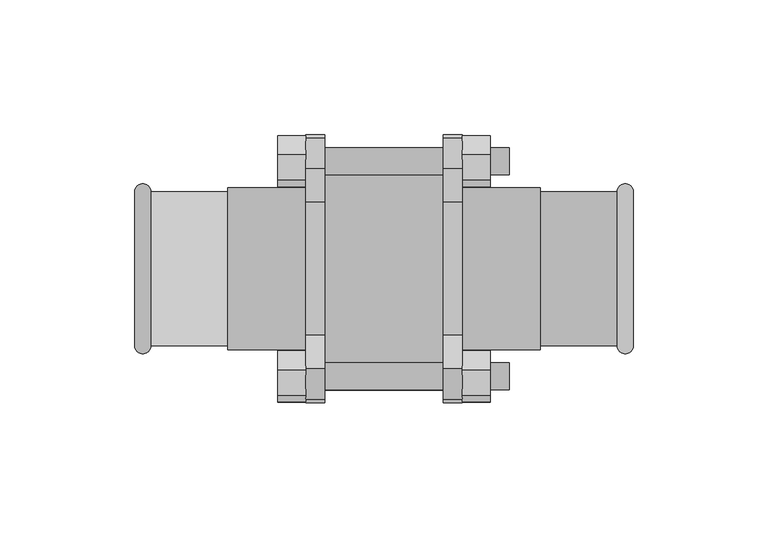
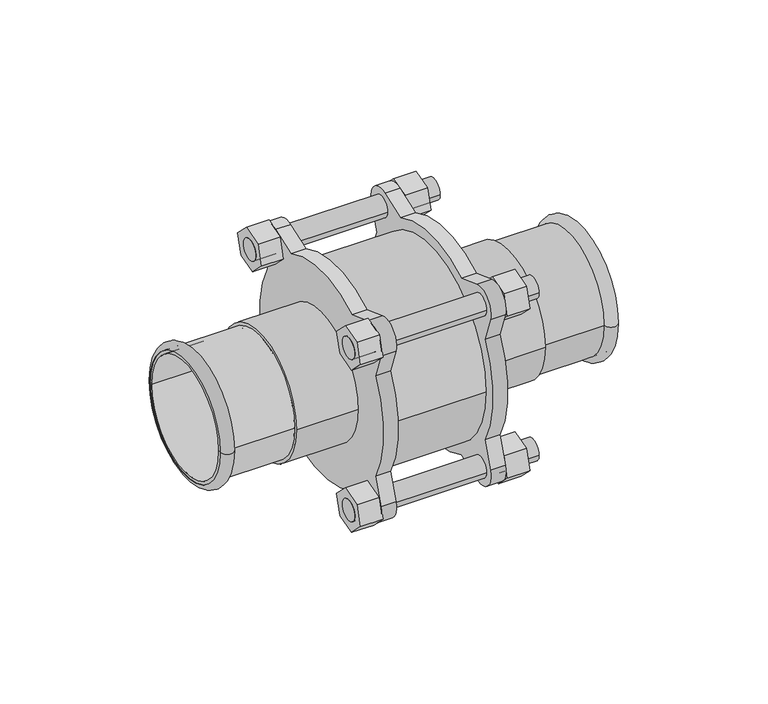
"""IFC4 building model written with IfcOpenShell, lengths in millimetres: valve geometry, NLRS_50_PIA_UN_Geberit Mapress rvs terugslagventiel geflensd_PRO_333155 : DN12-100 / d15-108 - OD."""

from ifc_helpers import new_model, si_unit, point, frame, frame_2d, origin, origin_2d, place, context, project, spatial, polyline, circle_curve, ellipse_curve, trimmed, segment, composite_curve, outline, extrude, source, transform, mapped, element, save
from ifc_brep_helpers import plane_surface, cylinder_surface, revolved_surface, advanced_brep


def valve_4438d6f1(model_context):
    return source(origin(), model_context, "Body", "SolidModel", [
        advanced_brep(
        [(92.5, -28.5, 0.0), (92.5, 28.5, 0.0), (86.4987073, 28.5, 0.0), (86.4987073, -28.5, 0.0)],
        [
            (0, 1, circle_curve(frame((92.5, 0.0, 0.0), z_axis=(1.0, 0.0, 0.0), x_axis=(0.0, 1.0, 0.0)), 28.5)),
            (1, 2),
            (2, 3, circle_curve(frame((86.4987073, 0.0, 0.0), z_axis=(-1.0, 0.0, 0.0), x_axis=(0.0, 1.0, 0.0)), 28.5)),
            (3, 0),
            (1, 0, circle_curve(frame((92.5, 0.0, 0.0), z_axis=(1.0, 0.0, 0.0), x_axis=(0.0, 1.0, 0.0)), 28.5)),
            (3, 2, circle_curve(frame((86.4987073, 0.0, 0.0), z_axis=(-1.0, 0.0, 0.0), x_axis=(0.0, 1.0, 0.0)), 28.5)),
            (2, 1, circle_curve(frame((89.4993536, 28.5, 0.0), z_axis=(0.0, 0.0, -1.0), x_axis=(1.0, 0.0, 0.0)), 3.0006464)),
            (0, 3, circle_curve(frame((89.4993536, -28.5, 0.0), z_axis=(0.0, 0.0, -1.0), x_axis=(1.0, 0.0, 0.0)), 3.0006464)),
        ],
        [
            revolved_surface(polyline([(86.4987073, 28.5, 0.0), (92.5, 28.5, 0.0)]), (58.0, 0.0, 0.0), (-1.0, 0.0, 0.0)),
            revolved_surface(trimmed(ellipse_curve(frame((89.4993536, 28.5, 0.0), z_axis=(0.0, 0.0, 1.0), x_axis=(1.0, 0.0, 0.0)), 3.0006464, 3.0006464), [point((92.5, 28.5, 0.0))], [point((86.4987073, 28.5, 0.0))], True, "CARTESIAN"), (58.0, 0.0, 0.0), (-1.0, 0.0, 0.0)),
        ],
        [
            (0, [[1, 2, 3, 4]]),
            (0, [[5, -4, 6, -2]]),
            (1, [[-3, 7, -1, 8]]),
            (1, [[-6, -8, -5, -7]]),
        ],
    ),
        advanced_brep(
        [(92.5, -27.0, 0.0), (92.5, 27.0, 0.0), (57.0, 27.0, 0.0), (57.0, -27.0, 0.0), (92.5, -28.5, 0.0), (92.5, 28.5, 0.0), (58.0, -28.5, 0.0), (58.0, 28.5, 0.0)],
        [
            (0, 1, circle_curve(frame((92.5, 0.0, 0.0), z_axis=(1.0, 0.0, 0.0), x_axis=(0.0, 1.0, 0.0)), 27.0)),
            (1, 2),
            (2, 3, circle_curve(frame((57.0, 0.0, 0.0), z_axis=(-1.0, 0.0, 0.0), x_axis=(0.0, 1.0, 0.0)), 27.0)),
            (3, 0),
            (1, 0, circle_curve(frame((92.5, 0.0, 0.0), z_axis=(1.0, 0.0, 0.0), x_axis=(0.0, 1.0, 0.0)), 27.0)),
            (3, 2, circle_curve(frame((57.0, 0.0, 0.0), z_axis=(-1.0, 0.0, 0.0), x_axis=(0.0, 1.0, 0.0)), 27.0)),
            (4, 5, circle_curve(frame((92.5, 0.0, 0.0), z_axis=(1.0, 0.0, 0.0), x_axis=(0.0, 1.0, 0.0)), 28.5)),
            (5, 1),
            (0, 4),
            (5, 4, circle_curve(frame((92.5, 0.0, 0.0), z_axis=(1.0, 0.0, 0.0), x_axis=(0.0, 1.0, 0.0)), 28.5)),
            (6, 7, circle_curve(frame((58.0, 0.0, 0.0), z_axis=(1.0, 0.0, 0.0), x_axis=(0.0, 1.0, 0.0)), 28.5)),
            (7, 5),
            (4, 6),
            (7, 6, circle_curve(frame((58.0, 0.0, 0.0), z_axis=(1.0, 0.0, 0.0), x_axis=(0.0, 1.0, 0.0)), 28.5)),
            (2, 7),
            (6, 3),
        ],
        [
            revolved_surface(polyline([(57.0, 27.0, 0.0), (92.5, 27.0, 0.0)]), (58.0, 0.0, 0.0), (-1.0, 0.0, 0.0)),
            plane_surface(frame((92.5, 0.0, 0.0), z_axis=(1.0, 0.0, 0.0), x_axis=(0.0, 1.0, 0.0))),
            cylinder_surface(frame((58.0, 0.0, 0.0), z_axis=(-1.0, 0.0, 0.0), x_axis=(0.0, 1.0, 0.0)), 28.5),
            revolved_surface(polyline([(58.0, 28.5, 0.0), (57.0, 27.0, 0.0)]), (58.0, 0.0, 0.0), (-1.0, 0.0, 0.0)),
        ],
        [
            (0, [[1, 2, 3, 4]]),
            (0, [[5, -4, 6, -2]]),
            (1, [[7, 8, -1, 9]]),
            (1, [[10, -9, -5, -8]]),
            (2, [[11, 12, -7, 13]]),
            (2, [[14, -13, -10, -12]]),
            (3, [[-3, 15, -11, 16]]),
            (3, [[-6, -16, -14, -15]]),
        ],
    ),
        advanced_brep(
        [(-92.5, 28.5, 0.0), (-92.5, -28.5, 0.0), (-86.4987073, -28.5, 0.0), (-86.4987073, 28.5, 0.0)],
        [
            (0, 1, circle_curve(frame((-92.5, 0.0, 0.0), z_axis=(-1.0, 0.0, 0.0), x_axis=(0.0, -1.0, 0.0)), 28.5)),
            (1, 2),
            (2, 3, circle_curve(frame((-86.4987073, 0.0, 0.0), z_axis=(1.0, 0.0, 0.0), x_axis=(0.0, -1.0, 0.0)), 28.5)),
            (3, 0),
            (1, 0, circle_curve(frame((-92.5, 0.0, 0.0), z_axis=(-1.0, 0.0, 0.0), x_axis=(0.0, -1.0, 0.0)), 28.5)),
            (3, 2, circle_curve(frame((-86.4987073, 0.0, 0.0), z_axis=(1.0, 0.0, 0.0), x_axis=(0.0, -1.0, 0.0)), 28.5)),
            (2, 1, circle_curve(frame((-89.4993536, -28.5, 0.0), z_axis=(0.0, 0.0, -1.0), x_axis=(-1.0, 0.0, 0.0)), 3.0006464)),
            (0, 3, circle_curve(frame((-89.4993536, 28.5, 0.0), z_axis=(0.0, 0.0, -1.0), x_axis=(-1.0, 0.0, 0.0)), 3.0006464)),
        ],
        [
            revolved_surface(polyline([(-86.4987073, -28.5, 0.0), (-92.5, -28.5, 0.0)]), (-58.0, 0.0, 0.0), (1.0, 0.0, 0.0)),
            revolved_surface(trimmed(ellipse_curve(frame((-89.4993536, -28.5, 0.0), z_axis=(0.0, 0.0, 1.0), x_axis=(-1.0, 0.0, 0.0)), 3.0006464, 3.0006464), [point((-92.5, -28.5, 0.0))], [point((-86.4987073, -28.5, 0.0))], True, "CARTESIAN"), (-58.0, 0.0, 0.0), (1.0, 0.0, 0.0)),
        ],
        [
            (0, [[1, 2, 3, 4]]),
            (0, [[5, -4, 6, -2]]),
            (1, [[-3, 7, -1, 8]]),
            (1, [[-6, -8, -5, -7]]),
        ],
    ),
        advanced_brep(
        [(-92.5, 27.0, 0.0), (-92.5, -27.0, 0.0), (-57.0, -27.0, 0.0), (-57.0, 27.0, 0.0), (-92.5, 28.5, 0.0), (-92.5, -28.5, 0.0), (-58.0, 28.5, 0.0), (-58.0, -28.5, 0.0)],
        [
            (0, 1, circle_curve(frame((-92.5, 0.0, 0.0), z_axis=(-1.0, 0.0, 0.0), x_axis=(0.0, -1.0, 0.0)), 27.0)),
            (1, 2),
            (2, 3, circle_curve(frame((-57.0, 0.0, 0.0), z_axis=(1.0, 0.0, 0.0), x_axis=(0.0, -1.0, 0.0)), 27.0)),
            (3, 0),
            (1, 0, circle_curve(frame((-92.5, 0.0, 0.0), z_axis=(-1.0, 0.0, 0.0), x_axis=(0.0, -1.0, 0.0)), 27.0)),
            (3, 2, circle_curve(frame((-57.0, 0.0, 0.0), z_axis=(1.0, 0.0, 0.0), x_axis=(0.0, -1.0, 0.0)), 27.0)),
            (4, 5, circle_curve(frame((-92.5, 0.0, 0.0), z_axis=(-1.0, 0.0, 0.0), x_axis=(0.0, -1.0, 0.0)), 28.5)),
            (5, 1),
            (0, 4),
            (5, 4, circle_curve(frame((-92.5, 0.0, 0.0), z_axis=(-1.0, 0.0, 0.0), x_axis=(0.0, -1.0, 0.0)), 28.5)),
            (6, 7, circle_curve(frame((-58.0, 0.0, 0.0), z_axis=(-1.0, 0.0, 0.0), x_axis=(0.0, -1.0, 0.0)), 28.5)),
            (7, 5),
            (4, 6),
            (7, 6, circle_curve(frame((-58.0, 0.0, 0.0), z_axis=(-1.0, 0.0, 0.0), x_axis=(0.0, -1.0, 0.0)), 28.5)),
            (2, 7),
            (6, 3),
        ],
        [
            revolved_surface(polyline([(-57.0, -27.0, 0.0), (-92.5, -27.0, 0.0)]), (-58.0, 0.0, 0.0), (1.0, 0.0, 0.0)),
            plane_surface(frame((-92.5, 0.0, 0.0), z_axis=(-1.0, 0.0, 0.0), x_axis=(0.0, -1.0, 0.0))),
            cylinder_surface(frame((-58.0, 0.0, 0.0), z_axis=(1.0, 0.0, 0.0), x_axis=(0.0, -1.0, 0.0)), 28.5),
            revolved_surface(polyline([(-58.0, -28.5, 0.0), (-57.0, -27.0, 0.0)]), (-58.0, 0.0, 0.0), (1.0, 0.0, 0.0)),
        ],
        [
            (0, [[1, 2, 3, 4]]),
            (0, [[5, -4, 6, -2]]),
            (1, [[7, 8, -1, 9]]),
            (1, [[10, -9, -5, -8]]),
            (2, [[11, 12, -7, 13]]),
            (2, [[14, -13, -10, -12]]),
            (3, [[-3, 15, -11, 16]]),
            (3, [[-6, -16, -14, -15]]),
        ],
    ),
        advanced_brep(
        [(-39.5, -44.9515331, 39.9515331), (-39.5, -34.9515331, 39.9515331), (-39.5, 34.9515331, 39.9515331), (-39.5, 44.9515331, 39.9515331), (-39.5, -44.9515331, -39.9515331), (-39.5, -34.9515331, -39.9515331), (-39.5, 34.9515331, -39.9515331), (-39.5, 44.9515331, -39.9515331), (46.5, -44.9515331, 39.9515331), (46.5, -34.9515331, 39.9515331), (46.5, 34.9515331, 39.9515331), (46.5, 44.9515331, 39.9515331), (46.5, -44.9515331, -39.9515331), (46.5, -34.9515331, -39.9515331), (46.5, 34.9515331, -39.9515331), (46.5, 44.9515331, -39.9515331), (-29.0, -44.9515331, 39.9515331), (-29.0, -34.9515331, 39.9515331), (29.0, -34.9515331, 39.9515331), (29.0, -44.9515331, 39.9515331), (22.0, -44.9515331, 39.9515331), (22.0, -34.9515331, 39.9515331), (-22.0, -34.9515331, 39.9515331), (-22.0, -44.9515331, 39.9515331), (-29.0, 34.9515331, 39.9515331), (-29.0, 44.9515331, 39.9515331), (29.0, 44.9515331, 39.9515331), (29.0, 34.9515331, 39.9515331), (22.0, 34.9515331, 39.9515331), (22.0, 44.9515331, 39.9515331), (-22.0, 44.9515331, 39.9515331), (-22.0, 34.9515331, 39.9515331), (-29.0, -44.9515331, -39.9515331), (-29.0, -34.9515331, -39.9515331), (29.0, -34.9515331, -39.9515331), (29.0, -44.9515331, -39.9515331), (22.0, -44.9515331, -39.9515331), (22.0, -34.9515331, -39.9515331), (-22.0, -34.9515331, -39.9515331), (-22.0, -44.9515331, -39.9515331), (-29.0, 34.9515331, -39.9515331), (-29.0, 44.9515331, -39.9515331), (29.0, 44.9515331, -39.9515331), (29.0, 34.9515331, -39.9515331), (22.0, 34.9515331, -39.9515331), (22.0, 44.9515331, -39.9515331), (-22.0, 44.9515331, -39.9515331), (-22.0, 34.9515331, -39.9515331), (22.0, -43.4565382, 24.7291181), (22.0, -47.9389204, 37.0443619), (22.0, -37.0443619, 47.9389204), (22.0, -24.7291181, 43.4565382), (22.0, 24.7291181, 43.4565382), (22.0, 37.0443619, 47.9389204), (22.0, 47.9389204, 37.0443619), (22.0, 43.4565382, 24.7291181), (22.0, 43.4565382, -24.7291181), (22.0, 47.9389204, -37.0443619), (22.0, 37.0443619, -47.9389204), (22.0, 24.7291181, -43.4565382), (22.0, -24.7291181, -43.4565382), (22.0, -37.0443619, -47.9389204), (22.0, -47.9389204, -37.0443619), (22.0, -43.4565382, -24.7291181), (29.0, -43.4565382, 24.7291181), (29.0, -43.4565382, -24.7291181), (29.0, -47.9389204, -37.0443619), (29.0, -37.0443619, -47.9389204), (29.0, -24.7291181, -43.4565382), (29.0, 24.7291181, -43.4565382), (29.0, 37.0443619, -47.9389204), (29.0, 47.9389204, -37.0443619), (29.0, 43.4565382, -24.7291181), (29.0, 43.4565382, 24.7291181), (29.0, 47.9389204, 37.0443619), (29.0, 37.0443619, 47.9389204), (29.0, 24.7291181, 43.4565382), (29.0, -24.7291181, 43.4565382), (29.0, -37.0443619, 47.9389204), (29.0, -47.9389204, 37.0443619), (-29.0, -43.4565382, 24.7291181), (-29.0, -47.9389204, 37.0443619), (-29.0, -37.0443619, 47.9389204), (-29.0, -24.7291181, 43.4565382), (-29.0, 24.7291181, 43.4565382), (-29.0, 37.0443619, 47.9389204), (-29.0, 47.9389204, 37.0443619), (-29.0, 43.4565382, 24.7291181), (-29.0, 43.4565382, -24.7291181), (-29.0, 47.9389204, -37.0443619), (-29.0, 37.0443619, -47.9389204), (-29.0, 24.7291181, -43.4565382), (-29.0, -24.7291181, -43.4565382), (-29.0, -37.0443619, -47.9389204), (-29.0, -47.9389204, -37.0443619), (-29.0, -43.4565382, -24.7291181), (-22.0, -43.4565382, 24.7291181), (-22.0, -43.4565382, -24.7291181), (-22.0, -47.9389204, -37.0443619), (-22.0, -37.0443619, -47.9389204), (-22.0, -24.7291181, -43.4565382), (-22.0, 24.7291181, -43.4565382), (-22.0, 37.0443619, -47.9389204), (-22.0, 47.9389204, -37.0443619), (-22.0, 43.4565382, -24.7291181), (-22.0, 43.4565382, 24.7291181), (-22.0, 47.9389204, 37.0443619), (-22.0, 37.0443619, 47.9389204), (-22.0, 24.7291181, 43.4565382), (-22.0, -24.7291181, 43.4565382), (-22.0, -37.0443619, 47.9389204), (-22.0, -47.9389204, 37.0443619)],
        [
            (0, 1, circle_curve(frame((-39.5, -39.9515331, 39.9515331), z_axis=(-1.0, 0.0, 0.0), x_axis=(0.0, 1.0, 0.0)), 5.0)),
            (1, 0, circle_curve(frame((-39.5, -39.9515331, 39.9515331), z_axis=(-1.0, 0.0, 0.0), x_axis=(0.0, 1.0, 0.0)), 5.0)),
            (2, 3, circle_curve(frame((-39.5, 39.9515331, 39.9515331), z_axis=(-1.0, 0.0, 0.0), x_axis=(0.0, 1.0, 0.0)), 5.0)),
            (3, 2, circle_curve(frame((-39.5, 39.9515331, 39.9515331), z_axis=(-1.0, 0.0, 0.0), x_axis=(0.0, 1.0, 0.0)), 5.0)),
            (4, 5, circle_curve(frame((-39.5, -39.9515331, -39.9515331), z_axis=(-1.0, 0.0, 0.0), x_axis=(0.0, 1.0, 0.0)), 5.0)),
            (5, 4, circle_curve(frame((-39.5, -39.9515331, -39.9515331), z_axis=(-1.0, 0.0, 0.0), x_axis=(0.0, 1.0, 0.0)), 5.0)),
            (6, 7, circle_curve(frame((-39.5, 39.9515331, -39.9515331), z_axis=(-1.0, 0.0, 0.0), x_axis=(0.0, 1.0, 0.0)), 5.0)),
            (7, 6, circle_curve(frame((-39.5, 39.9515331, -39.9515331), z_axis=(-1.0, 0.0, 0.0), x_axis=(0.0, 1.0, 0.0)), 5.0)),
            (8, 9, circle_curve(frame((46.5, -39.9515331, 39.9515331), z_axis=(1.0, 0.0, 0.0), x_axis=(0.0, 1.0, 0.0)), 5.0)),
            (9, 8, circle_curve(frame((46.5, -39.9515331, 39.9515331), z_axis=(1.0, 0.0, 0.0), x_axis=(0.0, 1.0, 0.0)), 5.0)),
            (10, 11, circle_curve(frame((46.5, 39.9515331, 39.9515331), z_axis=(1.0, 0.0, 0.0), x_axis=(0.0, 1.0, 0.0)), 5.0)),
            (11, 10, circle_curve(frame((46.5, 39.9515331, 39.9515331), z_axis=(1.0, 0.0, 0.0), x_axis=(0.0, 1.0, 0.0)), 5.0)),
            (12, 13, circle_curve(frame((46.5, -39.9515331, -39.9515331), z_axis=(1.0, 0.0, 0.0), x_axis=(0.0, 1.0, 0.0)), 5.0)),
            (13, 12, circle_curve(frame((46.5, -39.9515331, -39.9515331), z_axis=(1.0, 0.0, 0.0), x_axis=(0.0, 1.0, 0.0)), 5.0)),
            (14, 15, circle_curve(frame((46.5, 39.9515331, -39.9515331), z_axis=(1.0, 0.0, 0.0), x_axis=(0.0, 1.0, 0.0)), 5.0)),
            (15, 14, circle_curve(frame((46.5, 39.9515331, -39.9515331), z_axis=(1.0, 0.0, 0.0), x_axis=(0.0, 1.0, 0.0)), 5.0)),
            (0, 16),
            (16, 17, circle_curve(frame((-29.0, -39.9515331, 39.9515331), z_axis=(-1.0, 0.0, 0.0), x_axis=(0.0, 1.0, 0.0)), 5.0)),
            (17, 1),
            (9, 18),
            (18, 19, circle_curve(frame((29.0, -39.9515331, 39.9515331), z_axis=(1.0, 0.0, 0.0), x_axis=(0.0, 1.0, 0.0)), 5.0)),
            (19, 8),
            (20, 21, circle_curve(frame((22.0, -39.9515331, 39.9515331), z_axis=(-1.0, 0.0, 0.0), x_axis=(0.0, 1.0, 0.0)), 5.0)),
            (21, 22),
            (22, 23, circle_curve(frame((-22.0, -39.9515331, 39.9515331), z_axis=(1.0, 0.0, 0.0), x_axis=(0.0, 1.0, 0.0)), 5.0)),
            (23, 20),
            (17, 16, circle_curve(frame((-29.0, -39.9515331, 39.9515331), z_axis=(-1.0, 0.0, 0.0), x_axis=(0.0, 1.0, 0.0)), 5.0)),
            (19, 18, circle_curve(frame((29.0, -39.9515331, 39.9515331), z_axis=(1.0, 0.0, 0.0), x_axis=(0.0, 1.0, 0.0)), 5.0)),
            (21, 20, circle_curve(frame((22.0, -39.9515331, 39.9515331), z_axis=(-1.0, 0.0, 0.0), x_axis=(0.0, 1.0, 0.0)), 5.0)),
            (23, 22, circle_curve(frame((-22.0, -39.9515331, 39.9515331), z_axis=(1.0, 0.0, 0.0), x_axis=(0.0, 1.0, 0.0)), 5.0)),
            (2, 24),
            (24, 25, circle_curve(frame((-29.0, 39.9515331, 39.9515331), z_axis=(-1.0, 0.0, 0.0), x_axis=(0.0, 1.0, 0.0)), 5.0)),
            (25, 3),
            (11, 26),
            (26, 27, circle_curve(frame((29.0, 39.9515331, 39.9515331), z_axis=(1.0, 0.0, 0.0), x_axis=(0.0, 1.0, 0.0)), 5.0)),
            (27, 10),
            (28, 29, circle_curve(frame((22.0, 39.9515331, 39.9515331), z_axis=(-1.0, 0.0, 0.0), x_axis=(0.0, 1.0, 0.0)), 5.0)),
            (29, 30),
            (30, 31, circle_curve(frame((-22.0, 39.9515331, 39.9515331), z_axis=(1.0, 0.0, 0.0), x_axis=(0.0, 1.0, 0.0)), 5.0)),
            (31, 28),
            (25, 24, circle_curve(frame((-29.0, 39.9515331, 39.9515331), z_axis=(-1.0, 0.0, 0.0), x_axis=(0.0, 1.0, 0.0)), 5.0)),
            (27, 26, circle_curve(frame((29.0, 39.9515331, 39.9515331), z_axis=(1.0, 0.0, 0.0), x_axis=(0.0, 1.0, 0.0)), 5.0)),
            (29, 28, circle_curve(frame((22.0, 39.9515331, 39.9515331), z_axis=(-1.0, 0.0, 0.0), x_axis=(0.0, 1.0, 0.0)), 5.0)),
            (31, 30, circle_curve(frame((-22.0, 39.9515331, 39.9515331), z_axis=(1.0, 0.0, 0.0), x_axis=(0.0, 1.0, 0.0)), 5.0)),
            (4, 32),
            (32, 33, circle_curve(frame((-29.0, -39.9515331, -39.9515331), z_axis=(-1.0, 0.0, 0.0), x_axis=(0.0, 1.0, 0.0)), 5.0)),
            (33, 5),
            (13, 34),
            (34, 35, circle_curve(frame((29.0, -39.9515331, -39.9515331), z_axis=(1.0, 0.0, 0.0), x_axis=(0.0, 1.0, 0.0)), 5.0)),
            (35, 12),
            (36, 37, circle_curve(frame((22.0, -39.9515331, -39.9515331), z_axis=(-1.0, 0.0, 0.0), x_axis=(0.0, 1.0, 0.0)), 5.0)),
            (37, 38),
            (38, 39, circle_curve(frame((-22.0, -39.9515331, -39.9515331), z_axis=(1.0, 0.0, 0.0), x_axis=(0.0, 1.0, 0.0)), 5.0)),
            (39, 36),
            (33, 32, circle_curve(frame((-29.0, -39.9515331, -39.9515331), z_axis=(-1.0, 0.0, 0.0), x_axis=(0.0, 1.0, 0.0)), 5.0)),
            (35, 34, circle_curve(frame((29.0, -39.9515331, -39.9515331), z_axis=(1.0, 0.0, 0.0), x_axis=(0.0, 1.0, 0.0)), 5.0)),
            (37, 36, circle_curve(frame((22.0, -39.9515331, -39.9515331), z_axis=(-1.0, 0.0, 0.0), x_axis=(0.0, 1.0, 0.0)), 5.0)),
            (39, 38, circle_curve(frame((-22.0, -39.9515331, -39.9515331), z_axis=(1.0, 0.0, 0.0), x_axis=(0.0, 1.0, 0.0)), 5.0)),
            (6, 40),
            (40, 41, circle_curve(frame((-29.0, 39.9515331, -39.9515331), z_axis=(-1.0, 0.0, 0.0), x_axis=(0.0, 1.0, 0.0)), 5.0)),
            (41, 7),
            (15, 42),
            (42, 43, circle_curve(frame((29.0, 39.9515331, -39.9515331), z_axis=(1.0, 0.0, 0.0), x_axis=(0.0, 1.0, 0.0)), 5.0)),
            (43, 14),
            (44, 45, circle_curve(frame((22.0, 39.9515331, -39.9515331), z_axis=(-1.0, 0.0, 0.0), x_axis=(0.0, 1.0, 0.0)), 5.0)),
            (45, 46),
            (46, 47, circle_curve(frame((-22.0, 39.9515331, -39.9515331), z_axis=(1.0, 0.0, 0.0), x_axis=(0.0, 1.0, 0.0)), 5.0)),
            (47, 44),
            (41, 40, circle_curve(frame((-29.0, 39.9515331, -39.9515331), z_axis=(-1.0, 0.0, 0.0), x_axis=(0.0, 1.0, 0.0)), 5.0)),
            (43, 42, circle_curve(frame((29.0, 39.9515331, -39.9515331), z_axis=(1.0, 0.0, 0.0), x_axis=(0.0, 1.0, 0.0)), 5.0)),
            (45, 44, circle_curve(frame((22.0, 39.9515331, -39.9515331), z_axis=(-1.0, 0.0, 0.0), x_axis=(0.0, 1.0, 0.0)), 5.0)),
            (47, 46, circle_curve(frame((-22.0, 39.9515331, -39.9515331), z_axis=(1.0, 0.0, 0.0), x_axis=(0.0, 1.0, 0.0)), 5.0)),
            (48, 49),
            (49, 50, circle_curve(frame((22.0, -39.9515331, 39.9515331), z_axis=(-1.0, 0.0, 0.0), x_axis=(0.0, 1.0, 0.0)), 8.5)),
            (50, 51),
            (51, 52, circle_curve(frame((22.0, 0.0, 0.0), z_axis=(-1.0, 0.0, 0.0), x_axis=(0.0, 1.0, 0.0)), 50.0)),
            (52, 53),
            (53, 54, circle_curve(frame((22.0, 39.9515331, 39.9515331), z_axis=(-1.0, 0.0, 0.0), x_axis=(0.0, 1.0, 0.0)), 8.5)),
            (54, 55),
            (55, 56, circle_curve(frame((22.0, 0.0, 0.0), z_axis=(-1.0, 0.0, 0.0), x_axis=(0.0, 1.0, 0.0)), 50.0)),
            (56, 57),
            (57, 58, circle_curve(frame((22.0, 39.9515331, -39.9515331), z_axis=(-1.0, 0.0, 0.0), x_axis=(0.0, 1.0, 0.0)), 8.5)),
            (58, 59),
            (59, 60, circle_curve(frame((22.0, 0.0, 0.0), z_axis=(-1.0, 0.0, 0.0), x_axis=(0.0, 1.0, 0.0)), 50.0)),
            (60, 61),
            (61, 62, circle_curve(frame((22.0, -39.9515331, -39.9515331), z_axis=(-1.0, 0.0, 0.0), x_axis=(0.0, 1.0, 0.0)), 8.5)),
            (62, 63),
            (63, 48, circle_curve(frame((22.0, 0.0, 0.0), z_axis=(-1.0, 0.0, 0.0), x_axis=(0.0, 1.0, 0.0)), 50.0)),
            (64, 65, circle_curve(frame((29.0, 0.0, 0.0), z_axis=(1.0, 0.0, 0.0), x_axis=(0.0, 1.0, 0.0)), 50.0)),
            (65, 66),
            (66, 67, circle_curve(frame((29.0, -39.9515331, -39.9515331), z_axis=(1.0, 0.0, 0.0), x_axis=(0.0, 1.0, 0.0)), 8.5)),
            (67, 68),
            (68, 69, circle_curve(frame((29.0, 0.0, 0.0), z_axis=(1.0, 0.0, 0.0), x_axis=(0.0, 1.0, 0.0)), 50.0)),
            (69, 70),
            (70, 71, circle_curve(frame((29.0, 39.9515331, -39.9515331), z_axis=(1.0, 0.0, 0.0), x_axis=(0.0, 1.0, 0.0)), 8.5)),
            (71, 72),
            (72, 73, circle_curve(frame((29.0, 0.0, 0.0), z_axis=(1.0, 0.0, 0.0), x_axis=(0.0, 1.0, 0.0)), 50.0)),
            (73, 74),
            (74, 75, circle_curve(frame((29.0, 39.9515331, 39.9515331), z_axis=(1.0, 0.0, 0.0), x_axis=(0.0, 1.0, 0.0)), 8.5)),
            (75, 76),
            (76, 77, circle_curve(frame((29.0, 0.0, 0.0), z_axis=(1.0, 0.0, 0.0), x_axis=(0.0, 1.0, 0.0)), 50.0)),
            (77, 78),
            (78, 79, circle_curve(frame((29.0, -39.9515331, 39.9515331), z_axis=(1.0, 0.0, 0.0), x_axis=(0.0, 1.0, 0.0)), 8.5)),
            (79, 64),
            (48, 64),
            (79, 49),
            (78, 50),
            (77, 51),
            (76, 52),
            (75, 53),
            (74, 54),
            (73, 55),
            (72, 56),
            (71, 57),
            (70, 58),
            (69, 59),
            (68, 60),
            (67, 61),
            (66, 62),
            (65, 63),
            (80, 81),
            (81, 82, circle_curve(frame((-29.0, -39.9515331, 39.9515331), z_axis=(-1.0, 0.0, 0.0), x_axis=(0.0, 1.0, 0.0)), 8.5)),
            (82, 83),
            (83, 84, circle_curve(frame((-29.0, 0.0, 0.0), z_axis=(-1.0, 0.0, 0.0), x_axis=(0.0, 1.0, 0.0)), 50.0)),
            (84, 85),
            (85, 86, circle_curve(frame((-29.0, 39.9515331, 39.9515331), z_axis=(-1.0, 0.0, 0.0), x_axis=(0.0, 1.0, 0.0)), 8.5)),
            (86, 87),
            (87, 88, circle_curve(frame((-29.0, 0.0, 0.0), z_axis=(-1.0, 0.0, 0.0), x_axis=(0.0, 1.0, 0.0)), 50.0)),
            (88, 89),
            (89, 90, circle_curve(frame((-29.0, 39.9515331, -39.9515331), z_axis=(-1.0, 0.0, 0.0), x_axis=(0.0, 1.0, 0.0)), 8.5)),
            (90, 91),
            (91, 92, circle_curve(frame((-29.0, 0.0, 0.0), z_axis=(-1.0, 0.0, 0.0), x_axis=(0.0, 1.0, 0.0)), 50.0)),
            (92, 93),
            (93, 94, circle_curve(frame((-29.0, -39.9515331, -39.9515331), z_axis=(-1.0, 0.0, 0.0), x_axis=(0.0, 1.0, 0.0)), 8.5)),
            (94, 95),
            (95, 80, circle_curve(frame((-29.0, 0.0, 0.0), z_axis=(-1.0, 0.0, 0.0), x_axis=(0.0, 1.0, 0.0)), 50.0)),
            (96, 97, circle_curve(frame((-22.0, 0.0, 0.0), z_axis=(1.0, 0.0, 0.0), x_axis=(0.0, 1.0, 0.0)), 50.0)),
            (97, 98),
            (98, 99, circle_curve(frame((-22.0, -39.9515331, -39.9515331), z_axis=(1.0, 0.0, 0.0), x_axis=(0.0, 1.0, 0.0)), 8.5)),
            (99, 100),
            (100, 101, circle_curve(frame((-22.0, 0.0, 0.0), z_axis=(1.0, 0.0, 0.0), x_axis=(0.0, 1.0, 0.0)), 50.0)),
            (101, 102),
            (102, 103, circle_curve(frame((-22.0, 39.9515331, -39.9515331), z_axis=(1.0, 0.0, 0.0), x_axis=(0.0, 1.0, 0.0)), 8.5)),
            (103, 104),
            (104, 105, circle_curve(frame((-22.0, 0.0, 0.0), z_axis=(1.0, 0.0, 0.0), x_axis=(0.0, 1.0, 0.0)), 50.0)),
            (105, 106),
            (106, 107, circle_curve(frame((-22.0, 39.9515331, 39.9515331), z_axis=(1.0, 0.0, 0.0), x_axis=(0.0, 1.0, 0.0)), 8.5)),
            (107, 108),
            (108, 109, circle_curve(frame((-22.0, 0.0, 0.0), z_axis=(1.0, 0.0, 0.0), x_axis=(0.0, 1.0, 0.0)), 50.0)),
            (109, 110),
            (110, 111, circle_curve(frame((-22.0, -39.9515331, 39.9515331), z_axis=(1.0, 0.0, 0.0), x_axis=(0.0, 1.0, 0.0)), 8.5)),
            (111, 96),
            (80, 96),
            (111, 81),
            (110, 82),
            (109, 83),
            (108, 84),
            (107, 85),
            (106, 86),
            (105, 87),
            (104, 88),
            (103, 89),
            (102, 90),
            (101, 91),
            (100, 92),
            (99, 93),
            (98, 94),
            (97, 95),
        ],
        [
            plane_surface(frame((-39.5, 0.0, 0.0), z_axis=(-1.0, 0.0, 0.0), x_axis=(0.0, 0.0, 1.0))),
            plane_surface(frame((46.5, 0.0, 0.0), z_axis=(1.0, 0.0, 0.0), x_axis=(0.0, 0.0, 1.0))),
            cylinder_surface(frame((-39.5, -39.9515331, 39.9515331), z_axis=(-1.0, 0.0, 0.0), x_axis=(0.0, 1.0, 0.0)), 5.0),
            cylinder_surface(frame((-39.5, 39.9515331, 39.9515331), z_axis=(-1.0, 0.0, 0.0), x_axis=(0.0, 1.0, 0.0)), 5.0),
            cylinder_surface(frame((-39.5, -39.9515331, -39.9515331), z_axis=(-1.0, 0.0, 0.0), x_axis=(0.0, 1.0, 0.0)), 5.0),
            cylinder_surface(frame((-39.5, 39.9515331, -39.9515331), z_axis=(-1.0, 0.0, 0.0), x_axis=(0.0, 1.0, 0.0)), 5.0),
            plane_surface(frame((22.0, 0.0, 0.0), z_axis=(-1.0, 0.0, 0.0), x_axis=(0.0, 0.0, 1.0))),
            plane_surface(frame((29.0, 0.0, 0.0), z_axis=(1.0, 0.0, 0.0), x_axis=(0.0, 0.0, 1.0))),
            plane_surface(frame((22.0, -43.4565382, 24.7291181), z_axis=(0.0, -0.9396926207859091, -0.3420201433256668), x_axis=(1.0, 0.0, 0.0))),
            cylinder_surface(frame((22.0, -39.9515331, 39.9515331), z_axis=(-1.0, 0.0, 0.0), x_axis=(0.0, 1.0, 0.0)), 8.5),
            plane_surface(frame((22.0, -37.0443619, 47.9389204), z_axis=(0.0, 0.34202014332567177, 0.9396926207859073), x_axis=(1.0, 0.0, 0.0))),
            cylinder_surface(frame((22.0, 0.0, 0.0), z_axis=(-1.0, 0.0, 0.0), x_axis=(0.0, 1.0, 0.0)), 50.0),
            plane_surface(frame((22.0, 24.7291181, 43.4565382), z_axis=(0.0, -0.34202014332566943, 0.9396926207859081), x_axis=(1.0, 0.0, 0.0))),
            cylinder_surface(frame((22.0, 39.9515331, 39.9515331), z_axis=(-1.0, 0.0, 0.0), x_axis=(0.0, 1.0, 0.0)), 8.5),
            plane_surface(frame((22.0, 47.9389204, 37.0443619), z_axis=(0.0, 0.9396926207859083, -0.34202014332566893), x_axis=(1.0, 0.0, 0.0))),
            plane_surface(frame((22.0, 43.4565382, -24.7291181), z_axis=(0.0, 0.9396926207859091, 0.34202014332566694), x_axis=(1.0, 0.0, 0.0))),
            cylinder_surface(frame((22.0, 39.9515331, -39.9515331), z_axis=(-1.0, 0.0, 0.0), x_axis=(0.0, 1.0, 0.0)), 8.5),
            plane_surface(frame((22.0, 37.0443619, -47.9389204), z_axis=(0.0, -0.3420201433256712, -0.9396926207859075), x_axis=(1.0, 0.0, 0.0))),
            plane_surface(frame((22.0, -24.7291181, -43.4565382), z_axis=(0.0, 0.34202014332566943, -0.9396926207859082), x_axis=(1.0, 0.0, 0.0))),
            cylinder_surface(frame((22.0, -39.9515331, -39.9515331), z_axis=(-1.0, 0.0, 0.0), x_axis=(0.0, 1.0, 0.0)), 8.5),
            plane_surface(frame((22.0, -47.9389204, -37.0443619), z_axis=(0.0, -0.9396926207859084, 0.34202014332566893), x_axis=(1.0, 0.0, 0.0))),
            plane_surface(frame((-29.0, 0.0, 0.0), z_axis=(-1.0, 0.0, 0.0), x_axis=(0.0, 0.0, 1.0))),
            plane_surface(frame((-22.0, 0.0, 0.0), z_axis=(1.0, 0.0, 0.0), x_axis=(0.0, 0.0, 1.0))),
            plane_surface(frame((-29.0, -43.4565382, 24.7291181), z_axis=(0.0, -0.9396926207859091, -0.3420201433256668), x_axis=(1.0, 0.0, 0.0))),
            cylinder_surface(frame((-29.0, -39.9515331, 39.9515331), z_axis=(-1.0, 0.0, 0.0), x_axis=(0.0, 1.0, 0.0)), 8.5),
            plane_surface(frame((-29.0, -37.0443619, 47.9389204), z_axis=(0.0, 0.34202014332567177, 0.9396926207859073), x_axis=(1.0, 0.0, 0.0))),
            cylinder_surface(frame((-29.0, 0.0, 0.0), z_axis=(-1.0, 0.0, 0.0), x_axis=(0.0, 1.0, 0.0)), 50.0),
            plane_surface(frame((-29.0, 24.7291181, 43.4565382), z_axis=(0.0, -0.34202014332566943, 0.9396926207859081), x_axis=(1.0, 0.0, 0.0))),
            cylinder_surface(frame((-29.0, 39.9515331, 39.9515331), z_axis=(-1.0, 0.0, 0.0), x_axis=(0.0, 1.0, 0.0)), 8.5),
            plane_surface(frame((-29.0, 47.9389204, 37.0443619), z_axis=(0.0, 0.9396926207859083, -0.34202014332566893), x_axis=(1.0, 0.0, 0.0))),
            plane_surface(frame((-29.0, 43.4565382, -24.7291181), z_axis=(0.0, 0.9396926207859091, 0.34202014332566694), x_axis=(1.0, 0.0, 0.0))),
            cylinder_surface(frame((-29.0, 39.9515331, -39.9515331), z_axis=(-1.0, 0.0, 0.0), x_axis=(0.0, 1.0, 0.0)), 8.5),
            plane_surface(frame((-29.0, 37.0443619, -47.9389204), z_axis=(0.0, -0.3420201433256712, -0.9396926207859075), x_axis=(1.0, 0.0, 0.0))),
            plane_surface(frame((-29.0, -24.7291181, -43.4565382), z_axis=(0.0, 0.34202014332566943, -0.9396926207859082), x_axis=(1.0, 0.0, 0.0))),
            cylinder_surface(frame((-29.0, -39.9515331, -39.9515331), z_axis=(-1.0, 0.0, 0.0), x_axis=(0.0, 1.0, 0.0)), 8.5),
            plane_surface(frame((-29.0, -47.9389204, -37.0443619), z_axis=(0.0, -0.9396926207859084, 0.34202014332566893), x_axis=(1.0, 0.0, 0.0))),
        ],
        [
            (0, [[1, 2]]),
            (0, [[3, 4]]),
            (0, [[5, 6]]),
            (0, [[7, 8]]),
            (1, [[9, 10]]),
            (1, [[11, 12]]),
            (1, [[13, 14]]),
            (1, [[15, 16]]),
            (2, [[-1, 17, 18, 19]]),
            (2, [[-10, 20, 21, 22]]),
            (2, [[23, 24, 25, 26]]),
            (2, [[-2, -19, 27, -17]]),
            (2, [[-9, -22, 28, -20]]),
            (2, [[29, -26, 30, -24]]),
            (3, [[-3, 31, 32, 33]]),
            (3, [[-12, 34, 35, 36]]),
            (3, [[37, 38, 39, 40]]),
            (3, [[-4, -33, 41, -31]]),
            (3, [[-11, -36, 42, -34]]),
            (3, [[43, -40, 44, -38]]),
            (4, [[-5, 45, 46, 47]]),
            (4, [[-14, 48, 49, 50]]),
            (4, [[51, 52, 53, 54]]),
            (4, [[-6, -47, 55, -45]]),
            (4, [[-13, -50, 56, -48]]),
            (4, [[57, -54, 58, -52]]),
            (5, [[-7, 59, 60, 61]]),
            (5, [[-16, 62, 63, 64]]),
            (5, [[65, 66, 67, 68]]),
            (5, [[-8, -61, 69, -59]]),
            (5, [[-15, -64, 70, -62]]),
            (5, [[71, -68, 72, -66]]),
            (6, [[73, 74, 75, 76, 77, 78, 79, 80, 81, 82, 83, 84, 85, 86, 87, 88], [-23, -29], [-37, -43], [-51, -57], [-65, -71]]),
            (7, [[89, 90, 91, 92, 93, 94, 95, 96, 97, 98, 99, 100, 101, 102, 103, 104], [-21, -28], [-35, -42], [-49, -56], [-63, -70]]),
            (8, [[-73, 105, -104, 106]]),
            (9, [[-74, -106, -103, 107]]),
            (10, [[-75, -107, -102, 108]]),
            (11, [[-76, -108, -101, 109]]),
            (12, [[-77, -109, -100, 110]]),
            (13, [[-78, -110, -99, 111]]),
            (14, [[-79, -111, -98, 112]]),
            (11, [[-80, -112, -97, 113]]),
            (15, [[-81, -113, -96, 114]]),
            (16, [[-82, -114, -95, 115]]),
            (17, [[-83, -115, -94, 116]]),
            (11, [[-84, -116, -93, 117]]),
            (18, [[-85, -117, -92, 118]]),
            (19, [[-86, -118, -91, 119]]),
            (20, [[-87, -119, -90, 120]]),
            (11, [[-88, -120, -89, -105]]),
            (21, [[121, 122, 123, 124, 125, 126, 127, 128, 129, 130, 131, 132, 133, 134, 135, 136], [-18, -27], [-32, -41], [-46, -55], [-60, -69]]),
            (22, [[137, 138, 139, 140, 141, 142, 143, 144, 145, 146, 147, 148, 149, 150, 151, 152], [-25, -30], [-39, -44], [-53, -58], [-67, -72]]),
            (23, [[-121, 153, -152, 154]]),
            (24, [[-122, -154, -151, 155]]),
            (25, [[-123, -155, -150, 156]]),
            (26, [[-124, -156, -149, 157]]),
            (27, [[-125, -157, -148, 158]]),
            (28, [[-126, -158, -147, 159]]),
            (29, [[-127, -159, -146, 160]]),
            (26, [[-128, -160, -145, 161]]),
            (30, [[-129, -161, -144, 162]]),
            (31, [[-130, -162, -143, 163]]),
            (32, [[-131, -163, -142, 164]]),
            (26, [[-132, -164, -141, 165]]),
            (33, [[-133, -165, -140, 166]]),
            (34, [[-134, -166, -139, 167]]),
            (35, [[-135, -167, -138, 168]]),
            (26, [[-136, -168, -137, -153]]),
        ],
    ),
        extrude(outline(composite_curve([segment(trimmed(circle_curve(origin_2d(), 45.0), [point((-45.0, 0.0))], [point((45.0, 0.0))], False, "CARTESIAN"), True, "CONTINUOUS"), segment(trimmed(circle_curve(origin_2d(), 45.0), [point((45.0, 0.0))], [point((-45.0, 0.0))], False, "CARTESIAN"), True, "CONTINUOUS")], self_intersect=False)), frame((-22.0, 0.0, 0.0), z_axis=(1.0, 0.0, 0.0), x_axis=(0.0, 1.0, 0.0)), (0.0, 0.0, 1.0), 44.0),
        extrude(outline(composite_curve([segment(trimmed(circle_curve(origin_2d(), 30.0), [point((-30.0, 0.0))], [point((30.0, 0.0))], False, "CARTESIAN"), True, "CONTINUOUS"), segment(trimmed(circle_curve(origin_2d(), 30.0), [point((30.0, 0.0))], [point((-30.0, 0.0))], False, "CARTESIAN"), True, "CONTINUOUS")], self_intersect=False)), frame((29.0, 0.0, 0.0), z_axis=(1.0, 0.0, 0.0), x_axis=(0.0, 1.0, 0.0)), (0.0, 0.0, 1.0), 29.0),
        extrude(outline(composite_curve([segment(trimmed(circle_curve(origin_2d(), 30.0), [point((-30.0, 0.0))], [point((30.0, 0.0))], False, "CARTESIAN"), True, "CONTINUOUS"), segment(trimmed(circle_curve(origin_2d(), 30.0), [point((30.0, 0.0))], [point((-30.0, 0.0))], False, "CARTESIAN"), True, "CONTINUOUS")], self_intersect=False)), frame((-58.0, 0.0, 0.0), z_axis=(1.0, 0.0, 0.0), x_axis=(0.0, 1.0, 0.0)), (0.0, 0.0, 1.0), 29.0),
        extrude(outline(polyline([(46.8917541, 33.0113122), (37.411236, 30.471015), (30.471015, 37.411236), (33.0113122, 46.8917541), (42.4918303, 49.4320512), (49.4320512, 42.4918303), (46.8917541, 33.0113122)]), holes=[composite_curve([segment(trimmed(circle_curve(frame_2d((39.9515331, 39.9515331)), 5.0), [point((44.9515331, 39.9515331))], [point((34.9515331, 39.9515331))], True, "CARTESIAN"), True, "CONTINUOUS"), segment(trimmed(circle_curve(frame_2d((39.9515331, 39.9515331)), 5.0), [point((34.9515331, 39.9515331))], [point((44.9515331, 39.9515331))], True, "CARTESIAN"), True, "CONTINUOUS")], self_intersect=False)]), frame((29.0, 0.0, 0.0), z_axis=(1.0, 0.0, 0.0), x_axis=(0.0, 1.0, 0.0)), (0.0, 0.0, 1.0), 10.5),
        extrude(outline(polyline([(-33.0113122, 33.0113122), (-42.4918303, 30.471015), (-49.4320512, 37.411236), (-46.8917541, 46.8917541), (-37.411236, 49.4320512), (-30.471015, 42.4918303), (-33.0113122, 33.0113122)]), holes=[composite_curve([segment(trimmed(circle_curve(frame_2d((-39.9515331, 39.9515331)), 5.0), [point((-34.9515331, 39.9515331))], [point((-44.9515331, 39.9515331))], True, "CARTESIAN"), True, "CONTINUOUS"), segment(trimmed(circle_curve(frame_2d((-39.9515331, 39.9515331)), 5.0), [point((-44.9515331, 39.9515331))], [point((-34.9515331, 39.9515331))], True, "CARTESIAN"), True, "CONTINUOUS")], self_intersect=False)]), frame((29.0, 0.0, 0.0), z_axis=(1.0, 0.0, 0.0), x_axis=(0.0, 1.0, 0.0)), (0.0, 0.0, 1.0), 10.5),
        extrude(outline(polyline([(-33.0113122, -46.8917541), (-42.4918303, -49.4320512), (-49.4320512, -42.4918303), (-46.8917541, -33.0113122), (-37.411236, -30.471015), (-30.471015, -37.411236), (-33.0113122, -46.8917541)]), holes=[composite_curve([segment(trimmed(circle_curve(frame_2d((-39.9515331, -39.9515331)), 5.0), [point((-34.9515331, -39.9515331))], [point((-44.9515331, -39.9515331))], True, "CARTESIAN"), True, "CONTINUOUS"), segment(trimmed(circle_curve(frame_2d((-39.9515331, -39.9515331)), 5.0), [point((-44.9515331, -39.9515331))], [point((-34.9515331, -39.9515331))], True, "CARTESIAN"), True, "CONTINUOUS")], self_intersect=False)]), frame((29.0, 0.0, 0.0), z_axis=(1.0, 0.0, 0.0), x_axis=(0.0, 1.0, 0.0)), (0.0, 0.0, 1.0), 10.5),
        extrude(outline(polyline([(46.8917541, -46.8917541), (37.411236, -49.4320512), (30.471015, -42.4918303), (33.0113122, -33.0113122), (42.4918303, -30.471015), (49.4320512, -37.411236), (46.8917541, -46.8917541)]), holes=[composite_curve([segment(trimmed(circle_curve(frame_2d((39.9515331, -39.9515331)), 5.0), [point((44.9515331, -39.9515331))], [point((34.9515331, -39.9515331))], True, "CARTESIAN"), True, "CONTINUOUS"), segment(trimmed(circle_curve(frame_2d((39.9515331, -39.9515331)), 5.0), [point((34.9515331, -39.9515331))], [point((44.9515331, -39.9515331))], True, "CARTESIAN"), True, "CONTINUOUS")], self_intersect=False)]), frame((29.0, 0.0, 0.0), z_axis=(1.0, 0.0, 0.0), x_axis=(0.0, 1.0, 0.0)), (0.0, 0.0, 1.0), 10.5),
        extrude(outline(polyline([(46.8917541, 33.0113122), (37.411236, 30.471015), (30.471015, 37.411236), (33.0113122, 46.8917541), (42.4918303, 49.4320512), (49.4320512, 42.4918303), (46.8917541, 33.0113122)]), holes=[composite_curve([segment(trimmed(circle_curve(frame_2d((39.9515331, 39.9515331)), 5.0), [point((44.9515331, 39.9515331))], [point((34.9515331, 39.9515331))], True, "CARTESIAN"), True, "CONTINUOUS"), segment(trimmed(circle_curve(frame_2d((39.9515331, 39.9515331)), 5.0), [point((34.9515331, 39.9515331))], [point((44.9515331, 39.9515331))], True, "CARTESIAN"), True, "CONTINUOUS")], self_intersect=False)]), frame((-39.5, 0.0, 0.0), z_axis=(1.0, 0.0, 0.0), x_axis=(0.0, 1.0, 0.0)), (0.0, 0.0, 1.0), 10.5),
        extrude(outline(polyline([(-33.0113122, 33.0113122), (-42.4918303, 30.471015), (-49.4320512, 37.411236), (-46.8917541, 46.8917541), (-37.411236, 49.4320512), (-30.471015, 42.4918303), (-33.0113122, 33.0113122)]), holes=[composite_curve([segment(trimmed(circle_curve(frame_2d((-39.9515331, 39.9515331)), 5.0), [point((-34.9515331, 39.9515331))], [point((-44.9515331, 39.9515331))], True, "CARTESIAN"), True, "CONTINUOUS"), segment(trimmed(circle_curve(frame_2d((-39.9515331, 39.9515331)), 5.0), [point((-44.9515331, 39.9515331))], [point((-34.9515331, 39.9515331))], True, "CARTESIAN"), True, "CONTINUOUS")], self_intersect=False)]), frame((-39.5, 0.0, 0.0), z_axis=(1.0, 0.0, 0.0), x_axis=(0.0, 1.0, 0.0)), (0.0, 0.0, 1.0), 10.5),
        extrude(outline(polyline([(-33.0113122, -46.8917541), (-42.4918303, -49.4320512), (-49.4320512, -42.4918303), (-46.8917541, -33.0113122), (-37.411236, -30.471015), (-30.471015, -37.411236), (-33.0113122, -46.8917541)]), holes=[composite_curve([segment(trimmed(circle_curve(frame_2d((-39.9515331, -39.9515331)), 5.0), [point((-34.9515331, -39.9515331))], [point((-44.9515331, -39.9515331))], True, "CARTESIAN"), True, "CONTINUOUS"), segment(trimmed(circle_curve(frame_2d((-39.9515331, -39.9515331)), 5.0), [point((-44.9515331, -39.9515331))], [point((-34.9515331, -39.9515331))], True, "CARTESIAN"), True, "CONTINUOUS")], self_intersect=False)]), frame((-39.5, 0.0, 0.0), z_axis=(1.0, 0.0, 0.0), x_axis=(0.0, 1.0, 0.0)), (0.0, 0.0, 1.0), 10.5),
        extrude(outline(polyline([(46.8917541, -46.8917541), (37.411236, -49.4320512), (30.471015, -42.4918303), (33.0113122, -33.0113122), (42.4918303, -30.471015), (49.4320512, -37.411236), (46.8917541, -46.8917541)]), holes=[composite_curve([segment(trimmed(circle_curve(frame_2d((39.9515331, -39.9515331)), 5.0), [point((44.9515331, -39.9515331))], [point((34.9515331, -39.9515331))], True, "CARTESIAN"), True, "CONTINUOUS"), segment(trimmed(circle_curve(frame_2d((39.9515331, -39.9515331)), 5.0), [point((34.9515331, -39.9515331))], [point((44.9515331, -39.9515331))], True, "CARTESIAN"), True, "CONTINUOUS")], self_intersect=False)]), frame((-39.5, 0.0, 0.0), z_axis=(1.0, 0.0, 0.0), x_axis=(0.0, 1.0, 0.0)), (0.0, 0.0, 1.0), 10.5),
    ])


if __name__ == "__main__":
    model = new_model("IFC4")
    model_context = context("Model", 3, world=origin())
    ifc_project = project(units=[si_unit("LENGTHUNIT", "METRE", prefix="MILLI")], contexts=[model_context])
    site = spatial("IfcSite", under=ifc_project)
    building = spatial("IfcBuilding", under=site)
    placement = place(None, origin())
    valve_shape = valve_4438d6f1(model_context)
    element("IfcValve", 1, ObjectType="NLRS_50_PIA_UN_Geberit Mapress rvs terugslagventiel geflensd_PRO_333155 : DN12-100 / d15-108 - OD", at=placement, inside=building, context=model_context, shape_type="MappedRepresentation", body=[
        mapped(valve_shape, transform((0.0, 0.0, 0.0), x_axis=(1.0, 0.0, 0.0), y_axis=(0.0, 1.0, 0.0), z_axis=(0.0, 0.0, 1.0))),
    ])
    save(model, "model.ifc")
